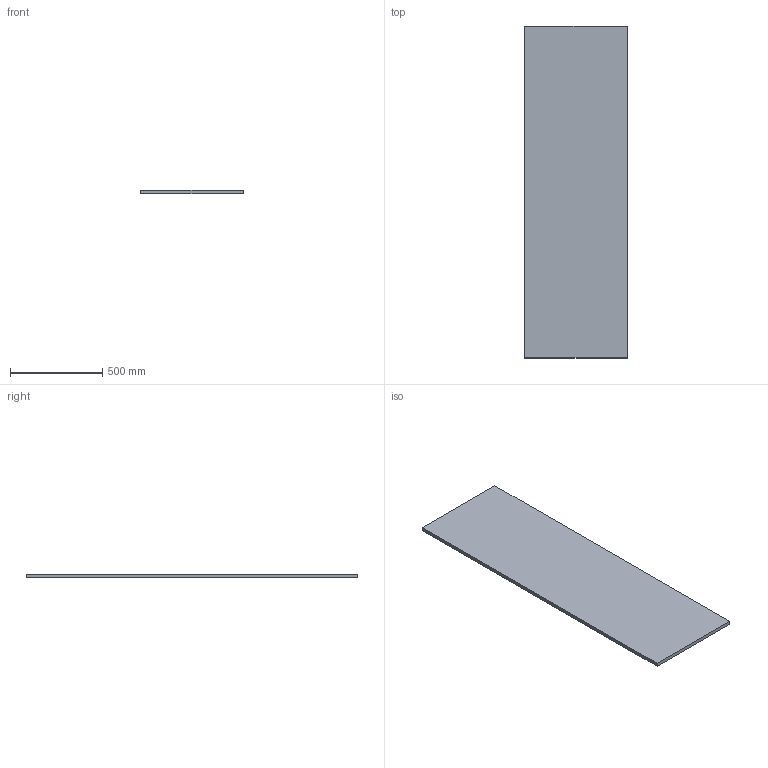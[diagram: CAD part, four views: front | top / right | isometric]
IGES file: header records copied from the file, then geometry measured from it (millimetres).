
Start section:  PTC IGES file: GPF5403700000G000_1.igs  PTC IGES file: gpf5403800000g000_asm.igs  PTC IGES file: GPF5420600000G001_1.igs  PTC IGES file: GPF5403200000G000_1.igs  PTC IGES file: T:\User\Fabio Oggero\Articoli IGS\Rettangolo\Accessori\2 0939_igs.igs  PTC IGES file: gpf5473810000g000_asm.igs  PTC IGES file: GPF6309900000G000_1.igs  PTC IGES file: GPF6301400000G000_1.igs  PTC IGES file: GPF3360700000G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
Global section: file name: \\Archi-NAS\Comune\X GIOVANNI\SCHEDE PRODOTTO\PIANI LAVABO\WOOD TOP\3D\MOMA DESIGN_PIANI LAVABO_WOOD TOP.igs; native system: Rhinoceros ( Jan 17 2018 ); preprocessor: Trout Lake IGES 012 Jan 17 2018; date: 230614.090231; units: millimetre
Bounding box: 557.17 x 1800 x 20 mm (x, y, z)
Surface area: 2099796.4 mm2 (no closed solid volume)
Topology: 0 solids, 0 shells, 6 faces, 26 edges, 28 vertices
Faces by surface type: bspline 6
